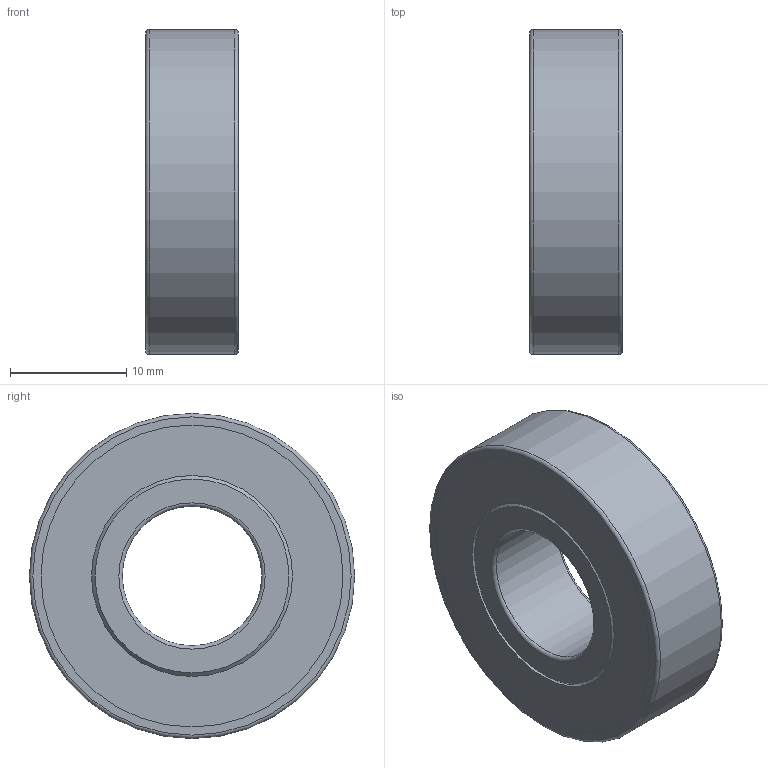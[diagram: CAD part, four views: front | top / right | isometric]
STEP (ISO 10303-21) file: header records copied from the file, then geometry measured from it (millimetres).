
FILE_DESCRIPTION(/* description */ (''),/* implementation_level */ '2;1');
FILE_NAME(/* name */ 'D:\moje\parametrické\60--\rada60--2ZR\60--2ZR\6001-2ZR.stp',/* time_stamp */ '2016-04-04T08:35:09+02:00',/* author */ ('OUBALASKO'),/* organization */ (''),/* preprocessor_version */ 'ST-DEVELOPER v15.2',/* originating_system */ 'Autodesk Inventor 2014',/* authorisation */ '');
FILE_SCHEMA (('AUTOMOTIVE_DESIGN { 1 0 10303 214 3 1 1 }'));
Length unit declared in the file: millimetre
Products named in the file (6): 6001-02-2ZR; 6001-ball; 6001-cage; 6001-01-2ZR; 6001-rsr,zr; 6001-2ZR
Bounding box: 8 x 28 x 28 mm (x, y, z)
Volume: 3262.7 mm3; surface area: 5491.6 mm2
Topology: 14 solids, 14 shells, 106 faces, 370 edges, 242 vertices
Faces by surface type: plane 42, sphere 40, cylinder 16, torus 6, cone 2
Full cylindrical faces by diameter (mm): 12 x1, 17.3 x4, 18.2 x2, 21.8 x2, 24 x2, 26 x4, 28 x1
Entity records: 2504 total; most frequent: CARTESIAN_POINT 968, DIRECTION 344, ORIENTED_EDGE 246, AXIS2_PLACEMENT_3D 172, EDGE_CURVE 123, VERTEX_POINT 92, CIRCLE 91, EDGE_LOOP 89
